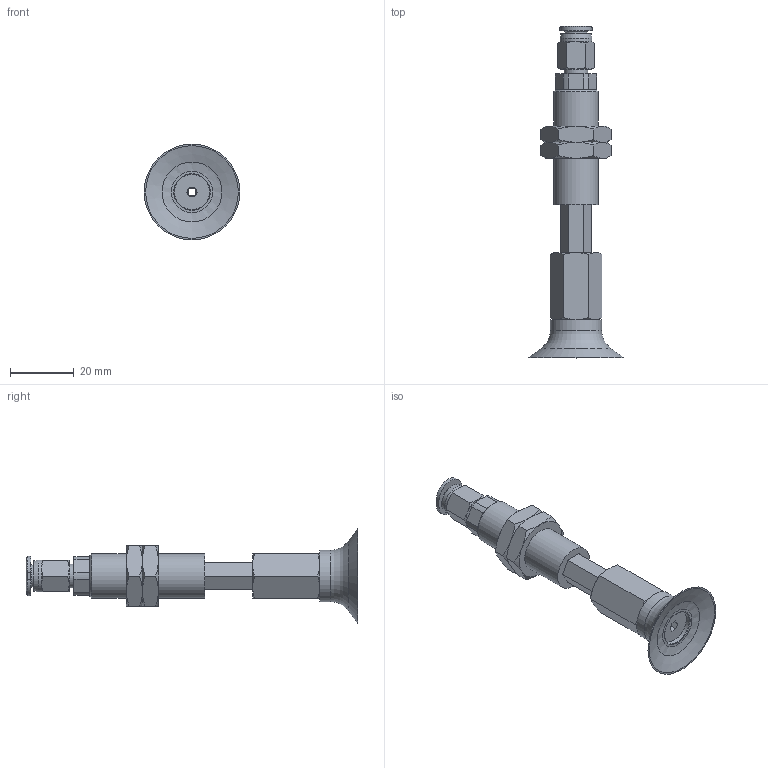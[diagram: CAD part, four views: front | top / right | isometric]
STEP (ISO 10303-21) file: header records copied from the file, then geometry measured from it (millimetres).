
FILE_DESCRIPTION(('STEP AP203'),'1');
FILE_NAME('-O.stp','2025-08-27T03:22:27',(' '),(' '),'Spatial InterOp 3D',' ',' ');
FILE_SCHEMA(('CONFIG_CONTROL_DESIGN'));
Length unit declared in the file: millimetre
Products named in the file (8): BNABPFTH-30-15-※-O; ADAPTER; NAPFTH-30-15-MBODY; TN-PF-30-M6-NAPF; Nut-30-15-h; NAPFTH-30-15-FBODY; BPFG-30-※; PC-C_06-M5
Assembly tree (8 placements, depth 2):
  BNABPFTH-30-15-※-O
    ADAPTER
    NAPFTH-30-15-MBODY
    TN-PF-30-M6-NAPF
    Nut-30-15-h  x2
    NAPFTH-30-15-FBODY
    BPFG-30-※
    PC-C_06-M5
Bounding box: 30 x 103.98 x 30 mm (x, y, z)
Volume: 14468.2 mm3; surface area: 12386.3 mm2
Topology: 7 solids, 10 shells, 190 faces, 404 edges, 245 vertices
Faces by surface type: plane 85, cone 62, cylinder 28, torus 7, bspline 5, revolution 3
Full cylindrical faces by diameter (mm): 3 x3, 4 x2, 4.134 x1, 4.917 x1, 5 x1, 6 x2, 7 x1, 7.4 x1, 8.2 x1, 10 x1, 11 x2, 12.917 x2, 14 x1, 16 x1
Entity records: 5129 total; most frequent: CARTESIAN_POINT 1410, DIRECTION 687, ORIENTED_EDGE 616, EDGE_CURVE 310, AXIS2_PLACEMENT_3D 285, EDGE_LOOP 234, VERTEX_POINT 212, FACE_OUTER_BOUND 134
